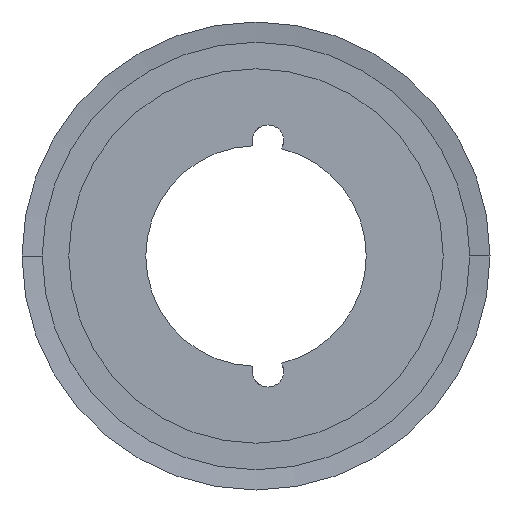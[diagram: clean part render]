
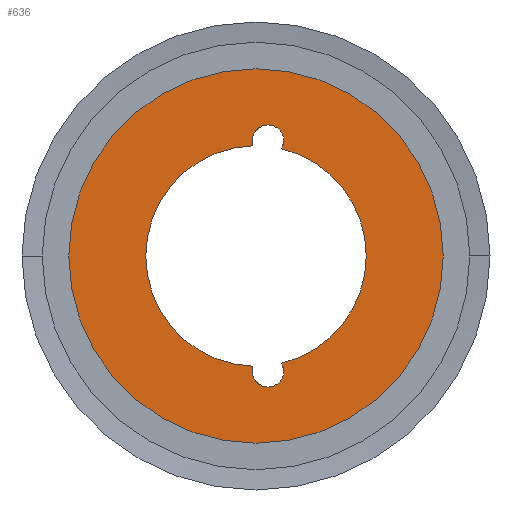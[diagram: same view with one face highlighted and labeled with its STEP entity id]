
A CAD part, left-side view. The second image highlights one B-rep face of the part: STEP entity #636.
In plain terms, the highlighted planar face has unit normal (-1, 0, 0).
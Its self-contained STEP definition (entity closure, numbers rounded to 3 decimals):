
#636 = ADVANCED_FACE( '', ( #1763, #1764 ), #1765, .T. );
#1763 = FACE_BOUND( '', #2891, .T. );
#1764 = FACE_OUTER_BOUND( '', #2892, .T. );
#1765 = PLANE( '', #2893 );
#2891 = EDGE_LOOP( '', ( #7543, #7544, #7545, #7546, #7547, #7548, #7549, #7550, #7551, #7552 ) );
#2892 = EDGE_LOOP( '', ( #7553, #7554 ) );
#2893 = AXIS2_PLACEMENT_3D( '', #7555, #7556, #7557 );
#7543 = ORIENTED_EDGE( '', *, *, #7704, .T. );
#7544 = ORIENTED_EDGE( '', *, *, #7707, .T. );
#7545 = ORIENTED_EDGE( '', *, *, #7706, .T. );
#7546 = ORIENTED_EDGE( '', *, *, #7699, .F. );
#7547 = ORIENTED_EDGE( '', *, *, #7711, .F. );
#7548 = ORIENTED_EDGE( '', *, *, #7715, .T. );
#7549 = ORIENTED_EDGE( '', *, *, #7691, .T. );
#7550 = ORIENTED_EDGE( '', *, *, #7686, .T. );
#7551 = ORIENTED_EDGE( '', *, *, #7712, .F. );
#7552 = ORIENTED_EDGE( '', *, *, #7697, .F. );
#7553 = ORIENTED_EDGE( '', *, *, #7561, .T. );
#7554 = ORIENTED_EDGE( '', *, *, #9046, .T. );
#7555 = CARTESIAN_POINT( '', ( 0., 23.831, 0. ) );
#7556 = DIRECTION( '', ( -1., 0., 0. ) );
#7557 = DIRECTION( '', ( 0., 1., 0. ) );
#7561 = EDGE_CURVE( '', #9048, #9052, #9054, .T. );
#7686 = EDGE_CURVE( '', #9292, #9295, #9297, .T. );
#7691 = EDGE_CURVE( '', #9299, #9292, #9306, .T. );
#7697 = EDGE_CURVE( '', #9315, #9307, #9317, .T. );
#7699 = EDGE_CURVE( '', #9318, #9321, #9322, .T. );
#7704 = EDGE_CURVE( '', #9315, #9328, #9330, .T. );
#7706 = EDGE_CURVE( '', #9331, #9321, #9333, .T. );
#7707 = EDGE_CURVE( '', #9328, #9331, #9334, .T. );
#7711 = EDGE_CURVE( '', #9337, #9318, #9339, .T. );
#7712 = EDGE_CURVE( '', #9307, #9295, #9340, .T. );
#7715 = EDGE_CURVE( '', #9337, #9299, #9343, .T. );
#9046 = EDGE_CURVE( '', #9052, #9048, #11466, .T. );
#9048 = VERTEX_POINT( '', #11468 );
#9052 = VERTEX_POINT( '', #11473 );
#9054 = CIRCLE( '', #11476, 30. );
#9292 = VERTEX_POINT( '', #11761 );
#9295 = VERTEX_POINT( '', #11765 );
#9297 = CIRCLE( '', #11776, 2.55 );
#9299 = VERTEX_POINT( '', #11778 );
#9306 = CIRCLE( '', #11804, 2.55 );
#9307 = VERTEX_POINT( '', #11805 );
#9315 = VERTEX_POINT( '', #11828 );
#9317 = CIRCLE( '', #11839, 17.662 );
#9318 = VERTEX_POINT( '', #11840 );
#9321 = VERTEX_POINT( '', #11844 );
#9322 = CIRCLE( '', #11845, 17.662 );
#9328 = VERTEX_POINT( '', #11869 );
#9330 = CIRCLE( '', #11872, 2.55 );
#9331 = VERTEX_POINT( '', #11873 );
#9333 = CIRCLE( '', #11876, 2.55 );
#9334 = CIRCLE( '', #11877, 2.55 );
#9337 = VERTEX_POINT( '', #11880 );
#9339 = CIRCLE( '', #11891, 17.662 );
#9340 = CIRCLE( '', #11892, 17.662 );
#9343 = CIRCLE( '', #11920, 2.55 );
#11466 = CIRCLE( '', #14659, 30. );
#11468 = CARTESIAN_POINT( '', ( 0., 30., 0. ) );
#11473 = CARTESIAN_POINT( '', ( 0., -30., 0. ) );
#11476 = AXIS2_PLACEMENT_3D( '', #14665, #14666, #14667 );
#11761 = CARTESIAN_POINT( '', ( 0., 0.625, -18.46 ) );
#11765 = CARTESIAN_POINT( '', ( 0., 0.495, -17.655 ) );
#11776 = AXIS2_PLACEMENT_3D( '', #14995, #14996, #14997 );
#11778 = CARTESIAN_POINT( '', ( 0., -4.475, -18.46 ) );
#11804 = AXIS2_PLACEMENT_3D( '', #15002, #15003, #15004 );
#11805 = CARTESIAN_POINT( '', ( 0., 17.662, 0. ) );
#11828 = CARTESIAN_POINT( '', ( 0., 0.495, 17.655 ) );
#11839 = AXIS2_PLACEMENT_3D( '', #15009, #15010, #15011 );
#11840 = CARTESIAN_POINT( '', ( 0., -17.662, 0. ) );
#11844 = CARTESIAN_POINT( '', ( 0., -4.126, 17.173 ) );
#11845 = AXIS2_PLACEMENT_3D( '', #15013, #15014, #15015 );
#11869 = CARTESIAN_POINT( '', ( 0., 0.625, 18.46 ) );
#11872 = AXIS2_PLACEMENT_3D( '', #15020, #15021, #15022 );
#11873 = CARTESIAN_POINT( '', ( 0., -4.475, 18.46 ) );
#11876 = AXIS2_PLACEMENT_3D( '', #15024, #15025, #15026 );
#11877 = AXIS2_PLACEMENT_3D( '', #15027, #15028, #15029 );
#11880 = CARTESIAN_POINT( '', ( 0., -4.126, -17.173 ) );
#11891 = AXIS2_PLACEMENT_3D( '', #15036, #15037, #15038 );
#11892 = AXIS2_PLACEMENT_3D( '', #15039, #15040, #15041 );
#11920 = AXIS2_PLACEMENT_3D( '', #15045, #15046, #15047 );
#14659 = AXIS2_PLACEMENT_3D( '', #17806, #17807, #17808 );
#14665 = CARTESIAN_POINT( '', ( 0., 0., 0. ) );
#14666 = DIRECTION( '', ( -1., 0., 0. ) );
#14667 = DIRECTION( '', ( 0., 1., 0. ) );
#14995 = CARTESIAN_POINT( '', ( 0., -1.925, -18.46 ) );
#14996 = DIRECTION( '', ( 1., 0., 0. ) );
#14997 = DIRECTION( '', ( 0., -1., 0. ) );
#15002 = CARTESIAN_POINT( '', ( 0., -1.925, -18.46 ) );
#15003 = DIRECTION( '', ( 1., 0., 0. ) );
#15004 = DIRECTION( '', ( 0., -1., 0. ) );
#15009 = CARTESIAN_POINT( '', ( 0., 0., 0. ) );
#15010 = DIRECTION( '', ( -1., 0., 0. ) );
#15011 = DIRECTION( '', ( 0., 1., 0. ) );
#15013 = CARTESIAN_POINT( '', ( 0., 0., 0. ) );
#15014 = DIRECTION( '', ( -1., 0., 0. ) );
#15015 = DIRECTION( '', ( 0., 1., 0. ) );
#15020 = CARTESIAN_POINT( '', ( 0., -1.925, 18.46 ) );
#15021 = DIRECTION( '', ( 1., 0., 0. ) );
#15022 = DIRECTION( '', ( 0., -1., 0. ) );
#15024 = CARTESIAN_POINT( '', ( 0., -1.925, 18.46 ) );
#15025 = DIRECTION( '', ( 1., 0., 0. ) );
#15026 = DIRECTION( '', ( 0., -1., 0. ) );
#15027 = CARTESIAN_POINT( '', ( 0., -1.925, 18.46 ) );
#15028 = DIRECTION( '', ( 1., 0., 0. ) );
#15029 = DIRECTION( '', ( 0., -1., 0. ) );
#15036 = CARTESIAN_POINT( '', ( 0., 0., 0. ) );
#15037 = DIRECTION( '', ( -1., 0., 0. ) );
#15038 = DIRECTION( '', ( 0., 1., 0. ) );
#15039 = CARTESIAN_POINT( '', ( 0., 0., 0. ) );
#15040 = DIRECTION( '', ( -1., 0., 0. ) );
#15041 = DIRECTION( '', ( 0., 1., 0. ) );
#15045 = CARTESIAN_POINT( '', ( 0., -1.925, -18.46 ) );
#15046 = DIRECTION( '', ( 1., 0., 0. ) );
#15047 = DIRECTION( '', ( 0., -1., 0. ) );
#17806 = CARTESIAN_POINT( '', ( 0., 0., 0. ) );
#17807 = DIRECTION( '', ( -1., 0., 0. ) );
#17808 = DIRECTION( '', ( 0., 1., 0. ) );
